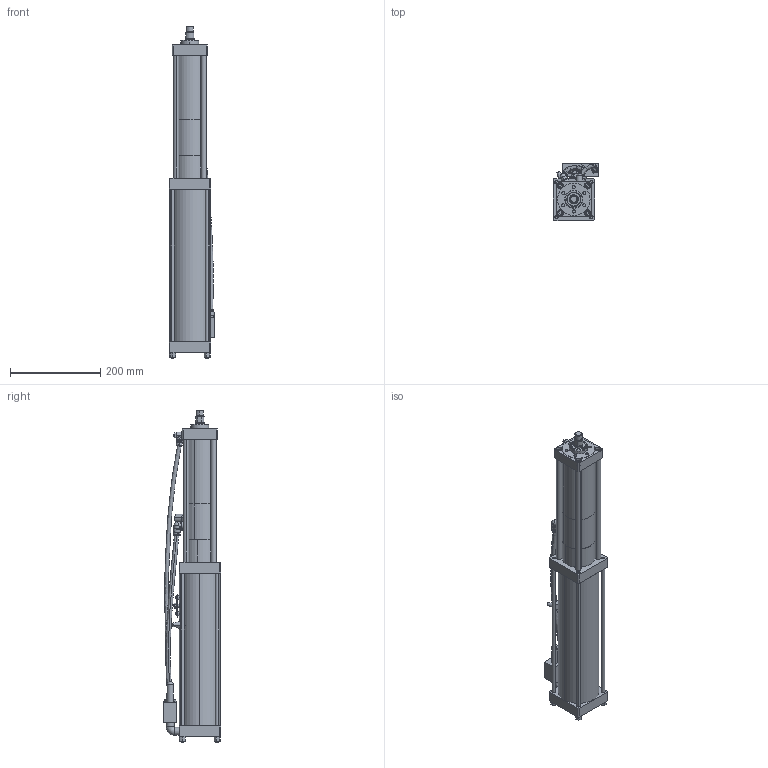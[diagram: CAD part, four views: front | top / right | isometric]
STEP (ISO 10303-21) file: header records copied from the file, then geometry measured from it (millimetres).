
FILE_DESCRIPTION (( 'STEP AP203' ), '1' );
FILE_NAME ('BS02-100-12S.step', '2025-07-31T09:39:24', ( 'Ranlm' ), ( '' ), 'SwSTEP 2.0', 'SolidWorks 2022', '' );
FILE_SCHEMA (( 'CONFIG_CONTROL_DESIGN' ));
Length unit declared in the file: millimetre
Products named in the file (1): BS02-100-12S
Bounding box: 101.67 x 126.5 x 735 mm (x, y, z)
Surface area: 381538.3 mm2 (no closed solid volume)
Topology: 0 solids, 45 shells, 509 faces, 1335 edges, 883 vertices
Faces by surface type: plane 226, cylinder 170, cone 74, torus 30, bspline 6, sphere 3
Entity records: 17185 total; most frequent: CARTESIAN_POINT 4364, DIRECTION 2848, ORIENTED_EDGE 2301, EDGE_CURVE 1325, AXIS2_PLACEMENT_3D 1087, VERTEX_POINT 880, VECTOR 674, LINE 674
